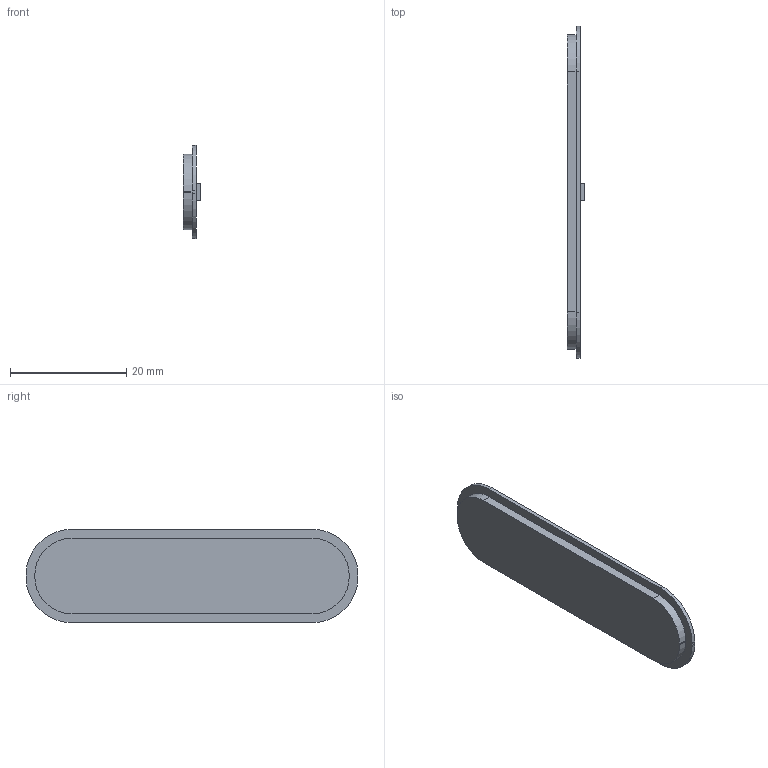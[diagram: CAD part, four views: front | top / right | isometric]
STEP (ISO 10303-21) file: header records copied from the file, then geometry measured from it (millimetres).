
FILE_DESCRIPTION(('Open CASCADE Model'),'2;1');
FILE_NAME('Open CASCADE Shape Model','2026-09-06T11:30:36',('Author'),( 'Open CASCADE'),'Open CASCADE STEP processor 7.7','Open CASCADE 7.7' ,'Unknown');
FILE_SCHEMA(('AUTOMOTIVE_DESIGN { 1 0 10303 214 1 1 1 1 }'));
Length unit declared in the file: millimetre
Products named in the file (1): Open CASCADE STEP translator 7.7 12
Bounding box: 3 x 57 x 16 mm (x, y, z)
Volume: 1566.8 mm3; surface area: 3316.1 mm2
Topology: 1 solids, 1 shells, 29 faces, 72 edges, 48 vertices
Faces by surface type: plane 21, cylinder 8
Entity records: 1832 total; most frequent: CARTESIAN_POINT 342, DIRECTION 284, LINE 184, VECTOR 184, ORIENTED_EDGE 144, PCURVE 144, DEFINITIONAL_REPRESENTATION 144, EDGE_CURVE 72
